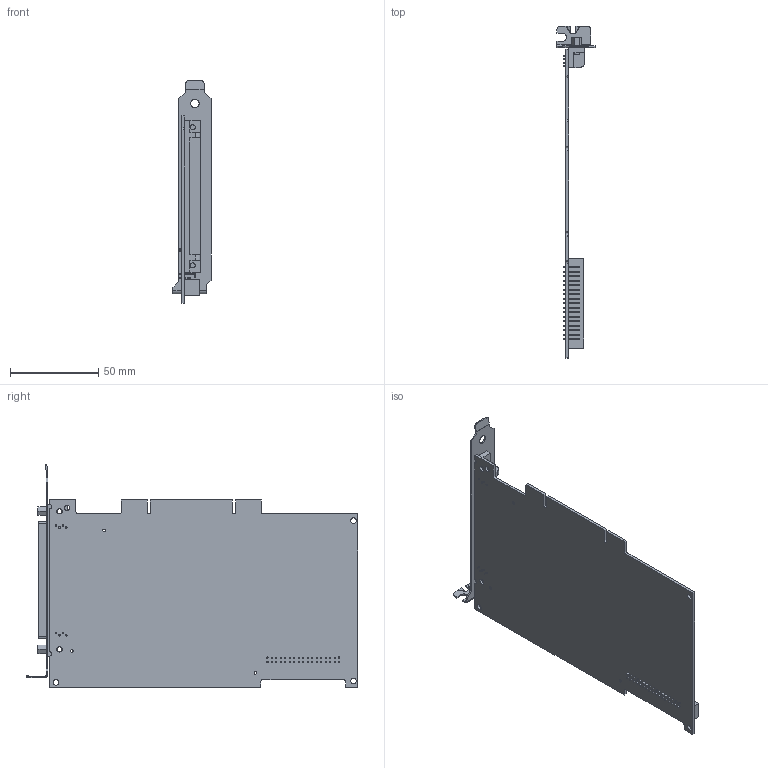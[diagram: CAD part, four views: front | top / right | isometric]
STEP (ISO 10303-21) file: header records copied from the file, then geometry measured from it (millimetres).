
FILE_DESCRIPTION((''),'2;1');
FILE_NAME('CU_PCI-100POS_INVERT_SCSI','2016-07-19T',('dkendric'),(''),'CREO PARAMETRIC BY PTC INC, 2015380','CREO PARAMETRIC BY PTC INC, 2015380','');
FILE_SCHEMA(('CONFIG_CONTROL_DESIGN'));
Length unit declared in the file: inch
Products named in the file (1): CU_PCI-100POS_INVERT_SCSI
Bounding box: 21.59 x 187.9 x 126.21 mm (x, y, z)
Volume: 38135.3 mm3; surface area: 46027.4 mm2
Topology: 1 solids, 3 shells, 827 faces, 2255 edges, 1484 vertices
Faces by surface type: plane 639, cylinder 176, cone 8, bspline 4
Entity records: 26148 total; most frequent: CARTESIAN_POINT 4705, ORIENTED_EDGE 4486, DIRECTION 4223, EDGE_CURVE 2243, VECTOR 1883, LINE 1883, VERTEX_POINT 1480, AXIS2_PLACEMENT_3D 1170
